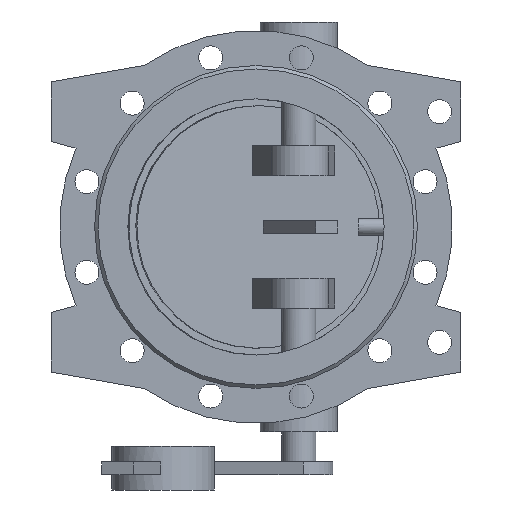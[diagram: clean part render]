
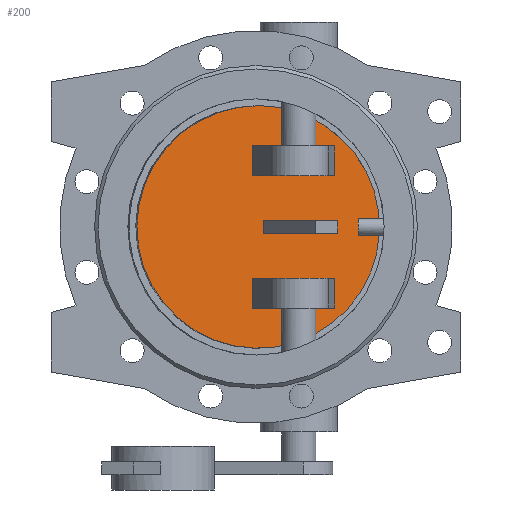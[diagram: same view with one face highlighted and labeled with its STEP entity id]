
A CAD part, front view. The second image highlights one B-rep face of the part: STEP entity #200.
In plain terms, the highlighted planar face has unit normal (0.131, -0.991, 0).
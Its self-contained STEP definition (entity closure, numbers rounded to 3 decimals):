
#200=ADVANCED_FACE('',(#1294,#1296,#1298,#1300),#1302,.T.);
#1294=FACE_BOUND('',#1295,.T.);
#1295=EDGE_LOOP('',(#2385));
#1296=FACE_BOUND('',#1297,.T.);
#1297=EDGE_LOOP('',(#2386,#2387,#2388,#2389));
#1298=FACE_BOUND('',#1299,.T.);
#1299=EDGE_LOOP('',(#2390,#2391,#2392,#2393));
#1300=FACE_BOUND('',#1301,.T.);
#1301=EDGE_LOOP('',(#2394,#2395,#2396,#2397));
#1302=PLANE('',#1303);
#1303=AXIS2_PLACEMENT_3D('',#1304,#1305,#1306);
#1304=CARTESIAN_POINT('',(-1.272,9.66,0.));
#1305=DIRECTION('',(0.131,-0.991,0.));
#1306=DIRECTION('',(0.,0.,-1.));
#2385=ORIENTED_EDGE('',*,*,#2864,.T.);
#2386=ORIENTED_EDGE('',*,*,#2868,.F.);
#2387=ORIENTED_EDGE('',*,*,#2869,.F.);
#2388=ORIENTED_EDGE('',*,*,#2870,.F.);
#2389=ORIENTED_EDGE('',*,*,#2871,.F.);
#2390=ORIENTED_EDGE('',*,*,#2872,.F.);
#2391=ORIENTED_EDGE('',*,*,#2873,.F.);
#2392=ORIENTED_EDGE('',*,*,#2874,.F.);
#2393=ORIENTED_EDGE('',*,*,#2875,.F.);
#2394=ORIENTED_EDGE('',*,*,#2876,.F.);
#2395=ORIENTED_EDGE('',*,*,#2877,.F.);
#2396=ORIENTED_EDGE('',*,*,#2878,.F.);
#2397=ORIENTED_EDGE('',*,*,#2879,.F.);
#2864=EDGE_CURVE('',#3137,#3137,#3138,.T.);
#2868=EDGE_CURVE('',#3145,#3146,#3147,.T.);
#2869=EDGE_CURVE('',#3148,#3145,#3149,.F.);
#2870=EDGE_CURVE('',#3150,#3148,#3151,.T.);
#2871=EDGE_CURVE('',#3146,#3150,#3152,.T.);
#2872=EDGE_CURVE('',#3153,#3154,#3155,.F.);
#2873=EDGE_CURVE('',#3156,#3153,#3157,.T.);
#2874=EDGE_CURVE('',#3158,#3156,#3159,.T.);
#2875=EDGE_CURVE('',#3154,#3158,#3160,.T.);
#2876=EDGE_CURVE('',#3161,#3162,#3163,.T.);
#2877=EDGE_CURVE('',#3164,#3161,#3165,.F.);
#2878=EDGE_CURVE('',#3166,#3164,#3167,.F.);
#2879=EDGE_CURVE('',#3162,#3166,#3168,.F.);
#3137=VERTEX_POINT('',#4109);
#3138=B_SPLINE_CURVE_WITH_KNOTS('',3,
(#4110,#4111,#4112,#4113,#4114,#4115,#4116,#4117,#4118,#4119,#4120,#4121,#4122,#4123,
#4124,#4125,#4126,#4127,#4128,#4129,#4130,#4131,#4132,#4133,#4134,#4135,#4136,#4137,
#4138,#4139,#4140,#4141,#4142,#4143,#4144,#4145,#4146,#4147,#4148,#4149,#4150,#4151,
#4152,#4153,#4154,#4155,#4156,#4157,#4158,#4159,#4160),
.UNSPECIFIED.,.T.,.F.,
(4,1,1,1,1,1,1,1,1,1,1,1,1,1,1,1,1,1,1,1,1,1,1,1,1,1,1,1,1,1,1,1,1,1,1,1,1,1,1,1,
1,1,1,1,1,1,1,1,4),
(0.,0.021,0.042,0.063,0.084,
0.105,0.126,0.147,0.168,0.189,
0.21,0.232,0.253,0.274,0.295,
0.316,0.337,0.358,0.379,0.4,
0.421,0.442,0.463,0.484,0.505,
0.526,0.548,0.569,0.59,0.611,
0.632,0.653,0.674,0.695,0.716,
0.737,0.758,0.779,0.8,0.822,
0.843,0.864,0.885,0.906,0.927,
0.948,0.969,0.986,1.),
.UNSPECIFIED.);
#3145=VERTEX_POINT('',#4223);
#3146=VERTEX_POINT('',#4224);
#3147=LINE('',#4225,#4226);
#3148=VERTEX_POINT('',#4228);
#3149=LINE('',#4229,#4230);
#3150=VERTEX_POINT('',#4232);
#3151=LINE('',#4233,#4234);
#3152=LINE('',#4236,#4237);
#3153=VERTEX_POINT('',#4239);
#3154=VERTEX_POINT('',#4240);
#3155=LINE('',#4241,#4242);
#3156=VERTEX_POINT('',#4244);
#3157=LINE('',#4245,#4246);
#3158=VERTEX_POINT('',#4248);
#3159=LINE('',#4249,#4250);
#3160=LINE('',#4252,#4253);
#3161=VERTEX_POINT('',#4255);
#3162=VERTEX_POINT('',#4256);
#3163=LINE('',#4257,#4258);
#3164=VERTEX_POINT('',#4260);
#3165=LINE('',#4261,#4262);
#3166=VERTEX_POINT('',#4264);
#3167=LINE('',#4265,#4266);
#3168=LINE('',#4268,#4269);
#4109=CARTESIAN_POINT('',(2.611,10.171,142.));
#4110=CARTESIAN_POINT('',(2.611,10.171,142.));
#4111=CARTESIAN_POINT('',(-3.625,9.35,142.));
#4112=CARTESIAN_POINT('',(-16.111,7.706,141.177));
#4113=CARTESIAN_POINT('',(-34.541,5.28,137.488));
#4114=CARTESIAN_POINT('',(-52.351,2.935,131.393));
#4115=CARTESIAN_POINT('',(-69.215,0.715,122.996));
#4116=CARTESIAN_POINT('',(-84.823,-1.34,112.449));
#4117=CARTESIAN_POINT('',(-98.906,-3.194,99.932));
#4118=CARTESIAN_POINT('',(-111.215,-4.814,85.665));
#4119=CARTESIAN_POINT('',(-121.534,-6.173,69.895));
#4120=CARTESIAN_POINT('',(-129.68,-7.245,52.898));
#4121=CARTESIAN_POINT('',(-135.511,-8.013,34.972));
#4122=CARTESIAN_POINT('',(-138.922,-8.462,16.433));
#4123=CARTESIAN_POINT('',(-139.854,-8.585,-2.395));
#4124=CARTESIAN_POINT('',(-138.29,-8.379,-21.179));
#4125=CARTESIAN_POINT('',(-134.258,-7.848,-39.59));
#4126=CARTESIAN_POINT('',(-127.83,-7.002,-57.305));
#4127=CARTESIAN_POINT('',(-119.12,-5.855,-74.014));
#4128=CARTESIAN_POINT('',(-108.282,-4.428,-89.424));
#4129=CARTESIAN_POINT('',(-95.507,-2.746,-103.267));
#4130=CARTESIAN_POINT('',(-81.02,-0.839,-115.303));
#4131=CARTESIAN_POINT('',(-65.072,1.261,-125.321));
#4132=CARTESIAN_POINT('',(-47.944,3.516,-133.149));
#4133=CARTESIAN_POINT('',(-29.933,5.887,-138.65));
#4134=CARTESIAN_POINT('',(-11.355,8.332,-141.729));
#4135=CARTESIAN_POINT('',(7.467,10.811,-142.332));
#4136=CARTESIAN_POINT('',(26.206,13.277,-140.448));
#4137=CARTESIAN_POINT('',(44.533,15.69,-136.111));
#4138=CARTESIAN_POINT('',(62.13,18.007,-129.394));
#4139=CARTESIAN_POINT('',(78.689,20.187,-120.414));
#4140=CARTESIAN_POINT('',(93.921,22.192,-109.327));
#4141=CARTESIAN_POINT('',(107.558,23.988,-96.326));
#4142=CARTESIAN_POINT('',(119.362,25.542,-81.636));
#4143=CARTESIAN_POINT('',(129.123,26.827,-65.514));
#4144=CARTESIAN_POINT('',(136.671,27.82,-48.243));
#4145=CARTESIAN_POINT('',(141.871,28.505,-30.124));
#4146=CARTESIAN_POINT('',(144.632,28.869,-11.477));
#4147=CARTESIAN_POINT('',(144.904,28.904,7.372));
#4148=CARTESIAN_POINT('',(142.684,28.612,26.09));
#4149=CARTESIAN_POINT('',(138.01,27.997,44.348));
#4150=CARTESIAN_POINT('',(130.967,27.07,61.827));
#4151=CARTESIAN_POINT('',(121.679,25.847,78.22));
#4152=CARTESIAN_POINT('',(110.31,24.35,93.241));
#4153=CARTESIAN_POINT('',(97.06,22.606,106.63));
#4154=CARTESIAN_POINT('',(82.164,20.645,118.149));
#4155=CARTESIAN_POINT('',(65.902,18.504,127.591));
#4156=CARTESIAN_POINT('',(48.508,16.214,134.824));
#4157=CARTESIAN_POINT('',(31.356,13.956,139.419));
#4158=CARTESIAN_POINT('',(15.935,11.925,141.602));
#4159=CARTESIAN_POINT('',(6.683,10.707,142.));
#4160=CARTESIAN_POINT('',(2.611,10.171,142.));
#4223=CARTESIAN_POINT('',(82.749,20.722,-7.5));
#4224=CARTESIAN_POINT('',(82.749,20.722,7.5));
#4225=CARTESIAN_POINT('',(82.749,20.722,-7.5));
#4226=VECTOR('',#4227,1.);
#4227=DIRECTION('',(0.,0.,1.));
#4228=CARTESIAN_POINT('',(8.391,10.932,-7.5));
#4229=CARTESIAN_POINT('',(82.749,20.722,-7.5));
#4230=VECTOR('',#4231,1.);
#4231=DIRECTION('',(-0.991,-0.131,0.));
#4232=CARTESIAN_POINT('',(8.391,10.932,7.5));
#4233=CARTESIAN_POINT('',(8.391,10.932,7.5));
#4234=VECTOR('',#4235,1.);
#4235=DIRECTION('',(0.,0.,-1.));
#4236=CARTESIAN_POINT('',(82.749,20.722,7.5));
#4237=VECTOR('',#4238,1.);
#4238=DIRECTION('',(-0.991,-0.131,0.));
#4239=CARTESIAN_POINT('',(-4.154,9.281,-95.));
#4240=CARTESIAN_POINT('',(92.142,21.958,-95.));
#4241=CARTESIAN_POINT('',(92.142,21.958,-95.));
#4242=VECTOR('',#4243,1.);
#4243=DIRECTION('',(-0.991,-0.131,0.));
#4244=CARTESIAN_POINT('',(-4.154,9.281,-60.));
#4245=CARTESIAN_POINT('',(-4.154,9.281,-60.));
#4246=VECTOR('',#4247,1.);
#4247=DIRECTION('',(0.,0.,-1.));
#4248=CARTESIAN_POINT('',(92.142,21.958,-60.));
#4249=CARTESIAN_POINT('',(92.142,21.958,-60.));
#4250=VECTOR('',#4251,1.);
#4251=DIRECTION('',(-0.991,-0.131,0.));
#4252=CARTESIAN_POINT('',(92.142,21.958,-95.));
#4253=VECTOR('',#4254,1.);
#4254=DIRECTION('',(0.,0.,1.));
#4255=CARTESIAN_POINT('',(92.142,21.958,95.));
#4256=CARTESIAN_POINT('',(-4.154,9.281,95.));
#4257=CARTESIAN_POINT('',(92.142,21.958,95.));
#4258=VECTOR('',#4259,1.);
#4259=DIRECTION('',(-0.991,-0.131,0.));
#4260=CARTESIAN_POINT('',(92.142,21.958,60.));
#4261=CARTESIAN_POINT('',(92.142,21.958,95.));
#4262=VECTOR('',#4263,1.);
#4263=DIRECTION('',(0.,0.,-1.));
#4264=CARTESIAN_POINT('',(-4.154,9.281,60.));
#4265=CARTESIAN_POINT('',(92.142,21.958,60.));
#4266=VECTOR('',#4267,1.);
#4267=DIRECTION('',(-0.991,-0.131,0.));
#4268=CARTESIAN_POINT('',(-4.154,9.281,60.));
#4269=VECTOR('',#4270,1.);
#4270=DIRECTION('',(0.,0.,1.));
